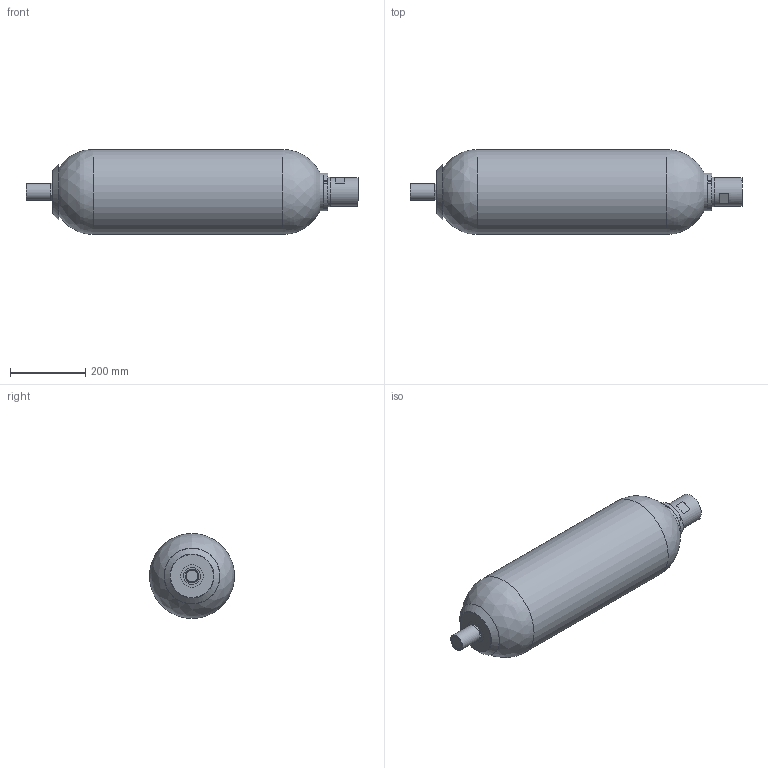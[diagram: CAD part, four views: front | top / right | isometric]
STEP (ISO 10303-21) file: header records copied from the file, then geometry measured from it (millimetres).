
FILE_DESCRIPTION(/* description */ (''),/* implementation_level */ '2;1');
FILE_NAME(/* name */ 'M:\INV_OLAER\1\10950101125.stp',/* time_stamp */ '2014-04-15T11:01:19+02:00',/* author */ ('OB222728'),/* organization */ (''),/* preprocessor_version */ 'ST-DEVELOPER v15.2',/* originating_system */ 'Autodesk Inventor 2014',/* authorisation */ '');
FILE_SCHEMA (('AUTOMOTIVE_DESIGN { 1 0 10303 214 3 1 1 }'));
Length unit declared in the file: millimetre
Products named in the file (11): CA106386-00190; CB110082-02500; BE105544-00200; EC100990-00200; BC110298-02520OMAR; PF091202-05200; BP090944-00200 BOUCHON DE PROTECTION; BP090944-00200 BOUCHON PLASTIQUE; BP090944-00200; EC090943-01200; 10950101125
Bounding box: 883.2 x 226.2 x 226.2 mm (x, y, z)
Volume: 6405511.3 mm3; surface area: 1118100.5 mm2
Topology: 8 solids, 8 shells, 138 faces, 311 edges, 197 vertices
Faces by surface type: plane 53, cylinder 40, cone 28, torus 12, bspline 3, sphere 2
Full cylindrical faces by diameter (mm): 12 x1, 15 x6, 18 x1, 20 x1, 20.68 x1, 22.52 x1, 31 x1, 34.5 x1, 36 x1, 36.5 x2, 38 x1, 45 x1, 54 x2, 56.656 x1, 60 x1, 76 x2, 76.835 x1, 79 x1, 80 x2, 88.4 x1, 88.9 x1, 88.95 x1, 101 x1, 202.4 x1, 226.2 x1
Entity records: 3740 total; most frequent: CARTESIAN_POINT 738, DIRECTION 648, ORIENTED_EDGE 440, AXIS2_PLACEMENT_3D 293, EDGE_LOOP 243, EDGE_CURVE 220, VERTEX_POINT 177, ADVANCED_FACE 138
